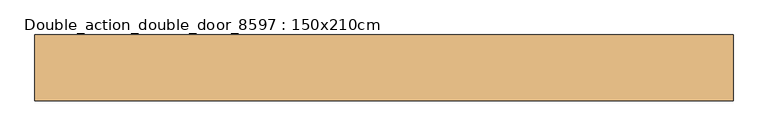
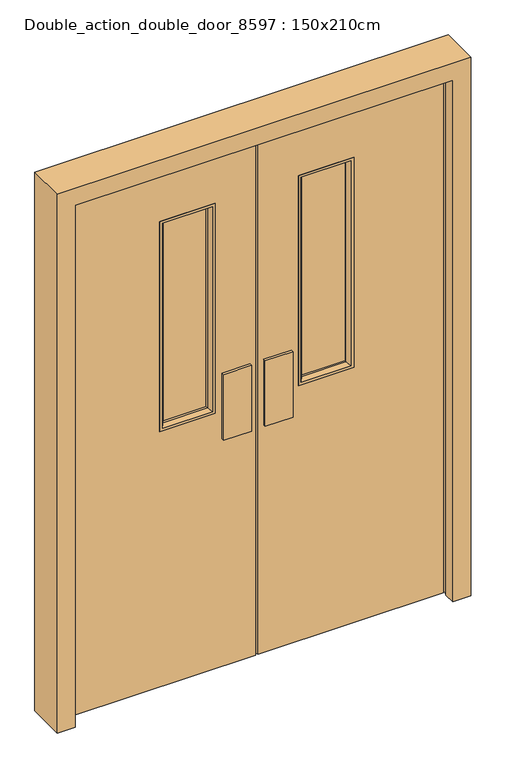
"""IFC4 building model written with IfcOpenShell, lengths in millimetres: door geometry, Double_action_double_door_8597 : 150x210cm."""

import ifcopenshell
import ifcopenshell.guid

model = None  # the IFC model being written
_history = None  # IfcOwnerHistory: only IFC2X3 demands one
_inside = {}  # id of a spatial element -> (the spatial element, [elements in it])
_under = {}  # id of a project, library or spatial element -> (it, [spatial elements below it])
_declared = {}  # id of a project -> (the project, [libraries it declares])
_typed = {}  # id of a type object -> (the type object, [elements of that type])
_made_of = {}  # id of a material, layer set ... -> (it, [elements and type objects made of it])


def new_model(schema):
    """Start an empty IFC model of exactly this schema.

    Asked for "IFC4X3", IfcOpenShell would pick the latest addendum, in which some entities
    have other attributes; the version numbers below select the first issue.
    IFC2X3 requires an IfcOwnerHistory on every rooted entity: one is made here for all.
    """
    global model, _history
    if schema == "IFC4X3":
        model = ifcopenshell.file(schema_version=(4, 3, 0, 0))
    else:
        model = ifcopenshell.file(schema=schema)
    _inside.clear()
    _under.clear()
    _declared.clear()
    _typed.clear()
    _made_of.clear()
    _history = None
    if model.schema == "IFC2X3":
        org = make("IfcOrganization", Name="unknown")
        user = make(
            "IfcPersonAndOrganization",
            ThePerson=make("IfcPerson", FamilyName="unknown"),
            TheOrganization=org,
        )
        app = make(
            "IfcApplication",
            ApplicationDeveloper=org,
            Version="unknown",
            ApplicationFullName="unknown",
            ApplicationIdentifier="unknown",
        )
        _history = make(
            "IfcOwnerHistory",
            OwningUser=user,
            OwningApplication=app,
            ChangeAction="ADDED",
            CreationDate=0,
        )
    return model


def make(cls, **values):
    """One entity of the class cls with the attributes given. An attribute that is None is left unset."""
    return model.create_entity(
        cls, **{name: value for name, value in values.items() if value is not None}
    )


def rooted(cls, **values):
    """An entity with a GlobalId (a new one), such as an element, a storey or a relation."""
    return make(cls, GlobalId=ifcopenshell.guid.new(), OwnerHistory=_history, **values)


def si_unit(unit_type, name, prefix=None):
    """IfcSIUnit, for example si_unit("LENGTHUNIT", "METRE", prefix="MILLI")."""
    return make("IfcSIUnit", UnitType=unit_type, Prefix=prefix, Name=name)


def assignment(units):
    """IfcUnitAssignment: the units of a project."""
    return None if units is None else make("IfcUnitAssignment", Units=units)


def point(xyz):
    """IfcCartesianPoint."""
    return None if xyz is None else make("IfcCartesianPoint", Coordinates=xyz)


def direction(xyz):
    """IfcDirection."""
    return None if xyz is None else make("IfcDirection", DirectionRatios=xyz)


def frame(location, z_axis=None, x_axis=None):
    """IfcAxis2Placement3D, a coordinate frame: its origin and axes. An axis left out is left unset."""
    return make(
        "IfcAxis2Placement3D",
        Location=point(location),
        Axis=direction(z_axis),
        RefDirection=direction(x_axis),
    )


def origin():
    """The frame at (0, 0, 0) with its axes left unset."""
    return frame((0.0, 0.0, 0.0))


def place(relative_to, where):
    """IfcLocalPlacement: puts the frame where relative to a parent placement (None: the world)."""
    return make(
        "IfcLocalPlacement", PlacementRelTo=relative_to, RelativePlacement=where
    )


def context(
    kind, dimensions, precision=None, world=None, true_north=None, identifier=None
):
    """IfcGeometricRepresentationContext, for example the 3D "Model" context."""
    return make(
        "IfcGeometricRepresentationContext",
        ContextIdentifier=identifier,
        ContextType=kind,
        CoordinateSpaceDimension=dimensions,
        Precision=precision,
        WorldCoordinateSystem=world,
        TrueNorth=true_north,
    )


def project(units=None, contexts=None):
    """IfcProject with its units and contexts."""
    return rooted(
        "IfcProject",
        Name="project",
        RepresentationContexts=contexts,
        UnitsInContext=assignment(units),
    )


def spatial(cls, under=None, at=None, **own):
    """A site, building, storey or space (cls), placed at a placement, below another one or the project."""
    s = rooted(cls, ObjectPlacement=at, **own)
    if under is not None:
        _under.setdefault(under.id(), (under, []))[1].append(s)
    return s


def polyline(points):
    """IfcPolyline through the points."""
    return make("IfcPolyline", Points=[point(p) for p in points])


def circle_curve(where, radius):
    """IfcCircle in the frame where."""
    return make("IfcCircle", Position=where, Radius=radius)


def outline(outer, holes=None, kind="AREA"):
    """IfcArbitraryClosedProfileDef: a profile drawn as a closed curve; with holes, ...WithVoids."""
    if holes is None:
        return make("IfcArbitraryClosedProfileDef", ProfileType=kind, OuterCurve=outer)
    return make(
        "IfcArbitraryProfileDefWithVoids",
        ProfileType=kind,
        OuterCurve=outer,
        InnerCurves=holes,
    )


def extrude(swept, where, along, depth):
    """IfcExtrudedAreaSolid: the profile swept, set in the frame where, extruded along a direction by depth."""
    return make(
        "IfcExtrudedAreaSolid",
        SweptArea=swept,
        Position=where,
        ExtrudedDirection=direction(along),
        Depth=depth,
    )


def faces_of(points, faces, orient=None, outer=None):
    """IfcFace entities. A face is a list of loops; a loop is a list of indices into points, from 0.

    orient and outer hold one flag for each loop. By default every Orientation is true, the
    first loop of a face is its IfcFaceOuterBound and the others are IfcFaceBound.
    """
    made = []
    for i, loops in enumerate(faces):
        bounds = []
        for j, loop in enumerate(loops):
            is_outer = j == 0 if outer is None else outer[i][j]
            bounds.append(
                make(
                    "IfcFaceOuterBound" if is_outer else "IfcFaceBound",
                    Bound=make("IfcPolyLoop", Polygon=[points[k] for k in loop]),
                    Orientation=True if orient is None else orient[i][j],
                )
            )
        made.append(make("IfcFace", Bounds=bounds))
    return made


def faceted_brep(points, faces, orient=None, outer=None, voids=None):
    """IfcFacetedBrep: a solid bounded by flat faces; with voids (closed shells), ...WithVoids."""
    shared = [point(p) for p in points]
    hull = make("IfcClosedShell", CfsFaces=faces_of(shared, faces, orient, outer))
    if voids is None:
        return make("IfcFacetedBrep", Outer=hull)
    return make(
        "IfcFacetedBrepWithVoids",
        Outer=hull,
        Voids=[
            make(cls, CfsFaces=faces_of(shared, fs, o, b)) for cls, fs, o, b in voids
        ],
    )


def shape(context_of_items, identifier, shape_type, items):
    """IfcShapeRepresentation: the items that make up one representation, for example the "Body"."""
    return make(
        "IfcShapeRepresentation",
        ContextOfItems=context_of_items,
        RepresentationIdentifier=identifier,
        RepresentationType=shape_type,
        Items=items,
    )


def source(mapping_origin, context_of_items, identifier, shape_type, items):
    """IfcRepresentationMap: a shape defined once, which mapped items show again and again."""
    return make(
        "IfcRepresentationMap",
        MappingOrigin=mapping_origin,
        MappedRepresentation=shape(context_of_items, identifier, shape_type, items),
    )


def transform(
    local_origin,
    x_axis=None,
    y_axis=None,
    z_axis=None,
    scale=None,
    scale2=None,
    scale3=None,
    uniform=True,
):
    """IfcCartesianTransformationOperator3D, or its non-uniform kind. x_axis, y_axis, z_axis: its Axis1, 2, 3."""
    if uniform:
        return make(
            "IfcCartesianTransformationOperator3D",
            Axis1=direction(x_axis),
            Axis2=direction(y_axis),
            LocalOrigin=point(local_origin),
            Scale=scale,
            Axis3=direction(z_axis),
        )
    return make(
        "IfcCartesianTransformationOperator3DnonUniform",
        Axis1=direction(x_axis),
        Axis2=direction(y_axis),
        LocalOrigin=point(local_origin),
        Scale=scale,
        Axis3=direction(z_axis),
        Scale2=scale2,
        Scale3=scale3,
    )


def mapped(mapping_source, mapping_target):
    """IfcMappedItem: shows the shape of a source again, moved by a transform."""
    return make(
        "IfcMappedItem", MappingSource=mapping_source, MappingTarget=mapping_target
    )


def made_of(thing, what):
    """Note that an element or type object is made of a material, layer set ...; save() writes the relation."""
    if what is not None:
        _made_of.setdefault(what.id(), (what, []))[1].append(thing)
    return thing


def element(
    cls,
    number,
    at=None,
    inside=None,
    cuts=None,
    type_object=None,
    material=None,
    context=None,
    identifier="Body",
    shape_type=None,
    held_by="IfcProductDefinitionShape",
    body=None,
    shapes=None,
    **own,
):
    """One element of the class cls, such as IfcWall. Its Tag is "e" and its number.

    at: its placement. inside: the storey or other place that contains it. cuts: it is an
    opening in that element (IfcRelVoidsElement). A single representation is given by context,
    identifier, shape_type and body (its items); several are given by shapes. held_by: the class
    of the entity that holds the representations. save() writes the other relations.
    """
    e = rooted(cls, Tag="e%d" % number, ObjectPlacement=at, **own)
    if body is not None:
        shapes = [shape(context, identifier, shape_type, body)]
    if shapes is not None:
        e.Representation = make(held_by, Representations=shapes)
    if inside is not None:
        _inside.setdefault(inside.id(), (inside, []))[1].append(e)
    if cuts is not None:
        rooted(
            "IfcRelVoidsElement", RelatingBuildingElement=cuts, RelatedOpeningElement=e
        )
    if type_object is not None:
        _typed.setdefault(type_object.id(), (type_object, []))[1].append(e)
    return made_of(e, material)


def aggregate(whole, parts):
    """IfcRelAggregates: a whole, such as a stair, and the parts it consists of."""
    return rooted("IfcRelAggregates", RelatingObject=whole, RelatedObjects=parts)


def save(model, path):
    """Write the relations noted so far, then the file.

    IfcRelAggregates (storeys below a building ...), IfcRelContainedInSpatialStructure (elements
    in a storey), IfcRelDefinesByType, IfcRelAssociatesMaterial and IfcRelDeclares: one each for
    every whole, place, type object, material and project.
    """
    for whole, parts in _under.values():
        aggregate(whole, parts)
    for where, things in _inside.values():
        rooted(
            "IfcRelContainedInSpatialStructure",
            RelatedElements=things,
            RelatingStructure=where,
        )
    for kind, things in _typed.values():
        rooted("IfcRelDefinesByType", RelatedObjects=things, RelatingType=kind)
    for what, things in _made_of.values():
        rooted("IfcRelAssociatesMaterial", RelatedObjects=things, RelatingMaterial=what)
    for by, libraries in _declared.values():
        rooted("IfcRelDeclares", RelatingContext=by, RelatedDefinitions=libraries)
    model.write(path)


def plane_surface(at):
    """IfcPlane: the flat surface through the origin of the frame at, square to its z axis."""
    return make("IfcPlane", Position=at)


def cylinder_surface(at, radius):
    """IfcCylindricalSurface: all points at the distance radius from the z axis of the frame at."""
    return make("IfcCylindricalSurface", Position=at, Radius=radius)


def advanced_brep(points, edges, surfaces, faces):
    """IfcAdvancedBrep: a solid bounded by faces that lie on surfaces and meet in shared edges.

    An edge is (start, end): straight between two places in points (the first is 0);
    or (start, end, curve); or (start, end, curve, False) where it runs against its curve.
    A face is (place in surfaces, loops), or (place, loops, False) where it looks against
    its surface's normal. A loop lists edges by number (the first is 1), with a minus sign
    where the edge is run from its end to its start. The first loop is the outer one.
    """
    corners = [point(p) for p in points]
    vertices = [make("IfcVertexPoint", VertexGeometry=c) for c in corners]
    made = []
    for start, end, *more in edges:
        made.append(
            make(
                "IfcEdgeCurve",
                EdgeStart=vertices[start],
                EdgeEnd=vertices[end],
                EdgeGeometry=more[0] if more else make("IfcPolyline", Points=[corners[start], corners[end]]),
                SameSense=more[1] if len(more) > 1 else True,
            )
        )
    hull = []
    for where, loops, *sense in faces:
        bounds = []
        for j, loop in enumerate(loops):
            ring = [make("IfcOrientedEdge", EdgeElement=made[abs(k) - 1], Orientation=k > 0) for k in loop]
            bounds.append(
                make(
                    "IfcFaceOuterBound" if j == 0 else "IfcFaceBound",
                    Bound=make("IfcEdgeLoop", EdgeList=ring),
                    Orientation=True,
                )
            )
        hull.append(make("IfcAdvancedFace", Bounds=bounds, FaceSurface=surfaces[where], SameSense=sense[0] if sense else True))
    return make("IfcAdvancedBrep", Outer=make("IfcClosedShell", CfsFaces=hull))


def double_action_double_door_8597_150x210cm_52e0ad49(model_context):
    return source(origin(), model_context, "Body", "SolidModel", [
        extrude(outline(polyline([(-125.0, 24.0), (-125.0, 33.5143417), (-25.0, 33.5143417), (-25.0, 24.0), (-125.0, 24.0)])), frame((0.0, 0.0, 875.0), z_axis=(0.0, 0.0, 1.0), x_axis=(1.0, 0.0, 0.0)), (0.0, 0.0, 1.0), 250.0),
        extrude(outline(polyline([(25.0, 33.5143417), (125.0, 33.5143417), (125.0, 24.0), (25.0, 24.0), (25.0, 33.5143417)])), frame((0.0, 0.0, 875.0), z_axis=(0.0, 0.0, 1.0), x_axis=(1.0, 0.0, 0.0)), (0.0, 0.0, 1.0), 250.0),
        extrude(outline(polyline([(-125.0, -24.0), (-25.0, -24.0), (-25.0, -33.5143417), (-125.0, -33.5143417), (-125.0, -24.0)])), frame((0.0, 0.0, 875.0), z_axis=(0.0, 0.0, 1.0), x_axis=(1.0, 0.0, 0.0)), (0.0, 0.0, 1.0), 250.0),
        extrude(outline(polyline([(25.0, -33.5143417), (25.0, -24.0), (125.0, -24.0), (125.0, -33.5143417), (25.0, -33.5143417)])), frame((0.0, 0.0, 875.0), z_axis=(0.0, 0.0, 1.0), x_axis=(1.0, 0.0, 0.0)), (0.0, 0.0, 1.0), 250.0),
        faceted_brep([(745.0, 70.0, 0.0), (745.0, -70.0, 0.0), (680.0, -70.0, 0.0), (680.0, -27.5, 0.0), (685.0, -15.0, 0.0), (685.0, 15.0, 0.0), (680.0, 27.5, 0.0), (680.0, 70.0, 0.0), (680.0, 70.0, 1985.0), (-680.0, 70.0, 1985.0), (-680.0, 70.0, 0.0), (-745.0, 70.0, 0.0), (-745.0, 70.0, 2050.0), (745.0, 70.0, 2050.0), (680.0, 27.5, 1985.0), (685.0, 15.0, 1990.0), (685.0, -15.0, 1990.0), (680.0, -27.5, 1985.0), (680.0, -70.0, 1985.0), (745.0, -70.0, 2050.0), (-745.0, -70.0, 2050.0), (-745.0, -70.0, 0.0), (-680.0, -70.0, 0.0), (-680.0, -70.0, 1985.0), (-680.0, 27.5, 0.0), (-685.0, 15.0, 0.0), (-685.0, -15.0, 0.0), (-680.0, -27.5, 0.0), (-680.0, 27.5, 1985.0), (-680.0, -27.5, 1985.0), (-685.0, -15.0, 1990.0), (-685.0, 15.0, 1990.0)], [[[0, 1, 2, 3, 4, 5, 6, 7]], [[7, 8, 9, 10, 11, 12, 13, 0]], [[6, 14, 8, 7]], [[5, 15, 14, 6]], [[4, 16, 15, 5]], [[3, 17, 16, 4]], [[2, 18, 17, 3]], [[1, 19, 20, 21, 22, 23, 18, 2]], [[0, 13, 19, 1]], [[11, 21, 20, 12]], [[10, 24, 25, 26, 27, 22, 21, 11]], [[9, 28, 24, 10]], [[22, 27, 29, 23]], [[29, 27, 26, 30]], [[30, 26, 25, 31]], [[31, 25, 24, 28]], [[8, 14, 28, 9]], [[15, 31, 28, 14]], [[16, 30, 31, 15]], [[17, 29, 30, 16]], [[18, 23, 29, 17]], [[12, 20, 19, 13]]]),
        extrude(outline(polyline([(170.0, -2.5), (170.0, 2.5), (330.0, 2.5), (330.0, -2.5), (170.0, -2.5)])), frame((0.0, 0.0, 1000.0), z_axis=(0.0, 0.0, 1.0), x_axis=(1.0, 0.0, 0.0)), (0.0, 0.0, 1.0), 760.0),
        faceted_brep([(170.0, -10.0, 1760.0), (330.0, -10.0, 1760.0), (340.0, -24.0, 1770.0), (160.0, -24.0, 1770.0), (170.0, 10.0, 1760.0), (330.0, 10.0, 1760.0), (160.0, 24.0, 1770.0), (340.0, 24.0, 1770.0), (150.0, -24.0, 1780.0), (350.0, -24.0, 1780.0), (350.0, 24.0, 1780.0), (150.0, 24.0, 1780.0), (330.0, -10.0, 1000.0), (340.0, -24.0, 990.0), (330.0, 10.0, 1000.0), (340.0, 24.0, 990.0), (350.0, -24.0, 980.0), (350.0, 24.0, 980.0), (170.0, -10.0, 1000.0), (160.0, -24.0, 990.0), (170.0, 10.0, 1000.0), (160.0, 24.0, 990.0), (150.0, -24.0, 980.0), (150.0, 24.0, 980.0)], [[[0, 1, 2, 3]], [[4, 5, 1, 0]], [[6, 7, 5, 4]], [[8, 9, 10, 11]], [[1, 12, 13, 2]], [[5, 14, 12, 1]], [[7, 15, 14, 5]], [[9, 16, 17, 10]], [[12, 18, 19, 13]], [[14, 20, 18, 12]], [[15, 21, 20, 14]], [[16, 22, 23, 17]], [[9, 8, 22, 16], [3, 2, 13, 19]], [[18, 0, 3, 19]], [[20, 4, 0, 18]], [[21, 6, 4, 20]], [[11, 10, 17, 23], [7, 6, 21, 15]], [[22, 8, 11, 23]]]),
        faceted_brep([(-150.0, 24.0, 1780.0), (-350.0, 24.0, 1780.0), (-350.0, -24.0, 1780.0), (-150.0, -24.0, 1780.0), (-170.0, 10.0, 1760.0), (-330.0, 10.0, 1760.0), (-340.0, 24.0, 1770.0), (-160.0, 24.0, 1770.0), (-170.0, -10.0, 1760.0), (-330.0, -10.0, 1760.0), (-160.0, -24.0, 1770.0), (-340.0, -24.0, 1770.0), (-350.0, 24.0, 980.0), (-350.0, -24.0, 980.0), (-330.0, 10.0, 1000.0), (-340.0, 24.0, 990.0), (-330.0, -10.0, 1000.0), (-340.0, -24.0, 990.0), (-150.0, 24.0, 980.0), (-150.0, -24.0, 980.0), (-170.0, 10.0, 1000.0), (-160.0, 24.0, 990.0), (-170.0, -10.0, 1000.0), (-160.0, -24.0, 990.0)], [[[0, 1, 2, 3]], [[4, 5, 6, 7]], [[8, 9, 5, 4]], [[10, 11, 9, 8]], [[1, 12, 13, 2]], [[5, 14, 15, 6]], [[9, 16, 14, 5]], [[11, 17, 16, 9]], [[12, 18, 19, 13]], [[14, 20, 21, 15]], [[16, 22, 20, 14]], [[17, 23, 22, 16]], [[18, 0, 3, 19]], [[1, 0, 18, 12], [7, 6, 15, 21]], [[20, 4, 7, 21]], [[22, 8, 4, 20]], [[23, 10, 8, 22]], [[3, 2, 13, 19], [11, 10, 23, 17]]]),
        extrude(outline(polyline([(-330.0, -2.5), (-330.0, 2.5), (-170.0, 2.5), (-170.0, -2.5), (-330.0, -2.5)])), frame((0.0, 0.0, 1000.0), z_axis=(0.0, 0.0, 1.0), x_axis=(1.0, 0.0, 0.0)), (0.0, 0.0, 1.0), 760.0),
        advanced_brep(
        [(-5.0083478, 24.0, 1990.0), (-673.0, 24.0, 1990.0), (-673.0, -24.0, 1990.0), (-5.0083478, -24.0, 1990.0), (-5.0083478, 24.0, 10.0), (-5.0083478, -24.0, 10.0), (-673.0, -24.0, 10.0), (-673.0, 24.0, 10.0), (-150.0, -24.0, 1780.0), (-150.0, -24.0, 980.0), (-350.0, -24.0, 980.0), (-350.0, -24.0, 1780.0), (-350.0, 24.0, 1780.0), (-350.0, 24.0, 980.0), (-150.0, 24.0, 980.0), (-150.0, 24.0, 1780.0)],
        [
            (0, 1),
            (1, 2, circle_curve(frame((-617.9, 0.0, 1990.0), z_axis=(0.0, 0.0, 1.0), x_axis=(1.0, 0.0, 0.0)), 60.1)),
            (2, 3),
            (3, 0, circle_curve(frame((-60.1083478, 0.0, 1990.0), z_axis=(0.0, 0.0, 1.0), x_axis=(1.0, 0.0, 0.0)), 60.1)),
            (4, 5, circle_curve(frame((-60.1083478, 0.0, 10.0), z_axis=(0.0, 0.0, -1.0), x_axis=(1.0, 0.0, 0.0)), 60.1)),
            (5, 6),
            (6, 7, circle_curve(frame((-617.9, 0.0, 10.0), z_axis=(0.0, 0.0, -1.0), x_axis=(1.0, 0.0, 0.0)), 60.1)),
            (7, 4),
            (3, 5),
            (4, 0),
            (2, 6),
            (8, 9),
            (9, 10),
            (10, 11),
            (11, 8),
            (1, 7),
            (12, 13),
            (13, 14),
            (14, 15),
            (15, 12),
            (8, 15),
            (14, 9),
            (13, 10),
            (12, 11),
        ],
        [
            plane_surface(frame((-0.0083478, 0.0, 1990.0), z_axis=(0.0, 0.0, 1.0), x_axis=(0.0, -1.0, 0.0))),
            plane_surface(frame((-0.0083478, 0.0, 10.0), z_axis=(0.0, 0.0, -1.0), x_axis=(0.0, 1.0, 0.0))),
            cylinder_surface(frame((-60.1083478, 0.0, 10.0), z_axis=(0.0, 0.0, 1.0), x_axis=(1.0, 0.0, 0.0)), 60.1),
            plane_surface(frame((-5.0083478, -24.0, 1990.0), z_axis=(0.0, -1.0, 0.0), x_axis=(0.0, 0.0, -1.0))),
            cylinder_surface(frame((-617.9, 0.0, 10.0), z_axis=(0.0, 0.0, 1.0), x_axis=(1.0, 0.0, 0.0)), 60.1),
            plane_surface(frame((-673.0, 24.0, 1990.0), z_axis=(0.0, 1.0, 0.0), x_axis=(0.0, 0.0, -1.0))),
            plane_surface(frame((-150.0, -65.0, 1780.0), z_axis=(-1.0, 0.0, 0.0), x_axis=(0.0, 1.0, 0.0))),
            plane_surface(frame((-150.0, -65.0, 980.0), z_axis=(0.0, 0.0, 1.0), x_axis=(0.0, 1.0, 0.0))),
            plane_surface(frame((-350.0, -65.0, 980.0), z_axis=(1.0, 0.0, 0.0), x_axis=(0.0, 1.0, 0.0))),
            plane_surface(frame((-350.0, -65.0, 1780.0), z_axis=(0.0, 0.0, -1.0), x_axis=(0.0, 1.0, 0.0))),
        ],
        [
            (0, [[1, 2, 3, 4]]),
            (1, [[5, 6, 7, 8]]),
            (2, [[9, -5, 10, -4]]),
            (3, [[11, -6, -9, -3], [12, 13, 14, 15]]),
            (4, [[16, -7, -11, -2]]),
            (5, [[-10, -8, -16, -1], [17, 18, 19, 20]]),
            (6, [[-12, 21, -19, 22]]),
            (7, [[-13, -22, -18, 23]]),
            (8, [[-14, -23, -17, 24]]),
            (9, [[-20, -21, -15, -24]]),
        ],
    ),
        advanced_brep(
        [(5.0083478, 24.0, 1990.0), (5.0083478, -24.0, 1990.0), (673.0, -24.0, 1990.0), (673.0, 24.0, 1990.0), (5.0083478, 24.0, 10.0), (673.0, 24.0, 10.0), (673.0, -24.0, 10.0), (5.0083478, -24.0, 10.0), (150.0, 24.0, 1780.0), (150.0, 24.0, 980.0), (350.0, 24.0, 980.0), (350.0, 24.0, 1780.0), (350.0, -24.0, 1780.0), (350.0, -24.0, 980.0), (150.0, -24.0, 980.0), (150.0, -24.0, 1780.0)],
        [
            (0, 1, circle_curve(frame((60.1083478, 0.0, 1990.0), z_axis=(0.0, 0.0, 1.0), x_axis=(-1.0, 0.0, 0.0)), 60.1)),
            (1, 2),
            (2, 3, circle_curve(frame((617.9, 0.0, 1990.0), z_axis=(0.0, 0.0, 1.0), x_axis=(-1.0, 0.0, 0.0)), 60.1)),
            (3, 0),
            (4, 5),
            (5, 6, circle_curve(frame((617.9, 0.0, 10.0), z_axis=(0.0, 0.0, -1.0), x_axis=(-1.0, 0.0, 0.0)), 60.1)),
            (6, 7),
            (7, 4, circle_curve(frame((60.1083478, 0.0, 10.0), z_axis=(0.0, 0.0, -1.0), x_axis=(-1.0, 0.0, 0.0)), 60.1)),
            (3, 5),
            (4, 0),
            (8, 9),
            (9, 10),
            (10, 11),
            (11, 8),
            (2, 6),
            (1, 7),
            (12, 13),
            (13, 14),
            (14, 15),
            (15, 12),
            (12, 11),
            (10, 13),
            (9, 14),
            (8, 15),
        ],
        [
            plane_surface(frame((673.0, 24.0, 1990.0), z_axis=(0.0, 0.0, 1.0), x_axis=(1.0, 0.0, 0.0))),
            plane_surface(frame((673.0, 24.0, 10.0), z_axis=(0.0, 0.0, -1.0), x_axis=(-1.0, 0.0, 0.0))),
            plane_surface(frame((5.0083478, 24.0, 1990.0), z_axis=(0.0, 1.0, 0.0), x_axis=(0.0, 0.0, -1.0))),
            cylinder_surface(frame((617.9, 0.0, 10.0), z_axis=(0.0, 0.0, 1.0), x_axis=(-1.0, 0.0, 0.0)), 60.1),
            plane_surface(frame((673.0, -24.0, 1990.0), z_axis=(0.0, -1.0, 0.0), x_axis=(0.0, 0.0, -1.0))),
            cylinder_surface(frame((60.1083478, 0.0, 10.0), z_axis=(0.0, 0.0, 1.0), x_axis=(-1.0, 0.0, 0.0)), 60.1),
            plane_surface(frame((350.0, -65.0, 1780.0), z_axis=(-1.0, 0.0, 0.0), x_axis=(0.0, 1.0, 0.0))),
            plane_surface(frame((350.0, -65.0, 980.0), z_axis=(0.0, 0.0, 1.0), x_axis=(0.0, 1.0, 0.0))),
            plane_surface(frame((150.0, -65.0, 980.0), z_axis=(1.0, 0.0, 0.0), x_axis=(0.0, 1.0, 0.0))),
            plane_surface(frame((150.0, -65.0, 1780.0), z_axis=(0.0, 0.0, -1.0), x_axis=(0.0, 1.0, 0.0))),
        ],
        [
            (0, [[1, 2, 3, 4]]),
            (1, [[5, 6, 7, 8]]),
            (2, [[9, -5, 10, -4], [11, 12, 13, 14]]),
            (3, [[15, -6, -9, -3]]),
            (4, [[16, -7, -15, -2], [17, 18, 19, 20]]),
            (5, [[-10, -8, -16, -1]]),
            (6, [[-17, 21, -13, 22]]),
            (7, [[-18, -22, -12, 23]]),
            (8, [[-19, -23, -11, 24]]),
            (9, [[-14, -21, -20, -24]]),
        ],
    ),
    ])


if __name__ == "__main__":
    model = new_model("IFC4")
    model_context = context("Model", 3, world=origin())
    ifc_project = project(units=[si_unit("LENGTHUNIT", "METRE", prefix="MILLI")], contexts=[model_context])
    site = spatial("IfcSite", under=ifc_project)
    building = spatial("IfcBuilding", under=site)
    placement = place(None, origin())
    double_action_double_door_8597_150x210cm_shape = double_action_double_door_8597_150x210cm_52e0ad49(model_context)
    element("IfcDoor", 1, ObjectType="Double_action_double_door_8597 : 150x210cm", at=placement, inside=building, context=model_context, shape_type="MappedRepresentation", body=[
        mapped(double_action_double_door_8597_150x210cm_shape, transform((0.0, 0.0, 0.0), x_axis=(1.0, 0.0, 0.0), y_axis=(0.0, 1.0, 0.0), z_axis=(0.0, 0.0, 1.0))),
    ])
    save(model, "model.ifc")
